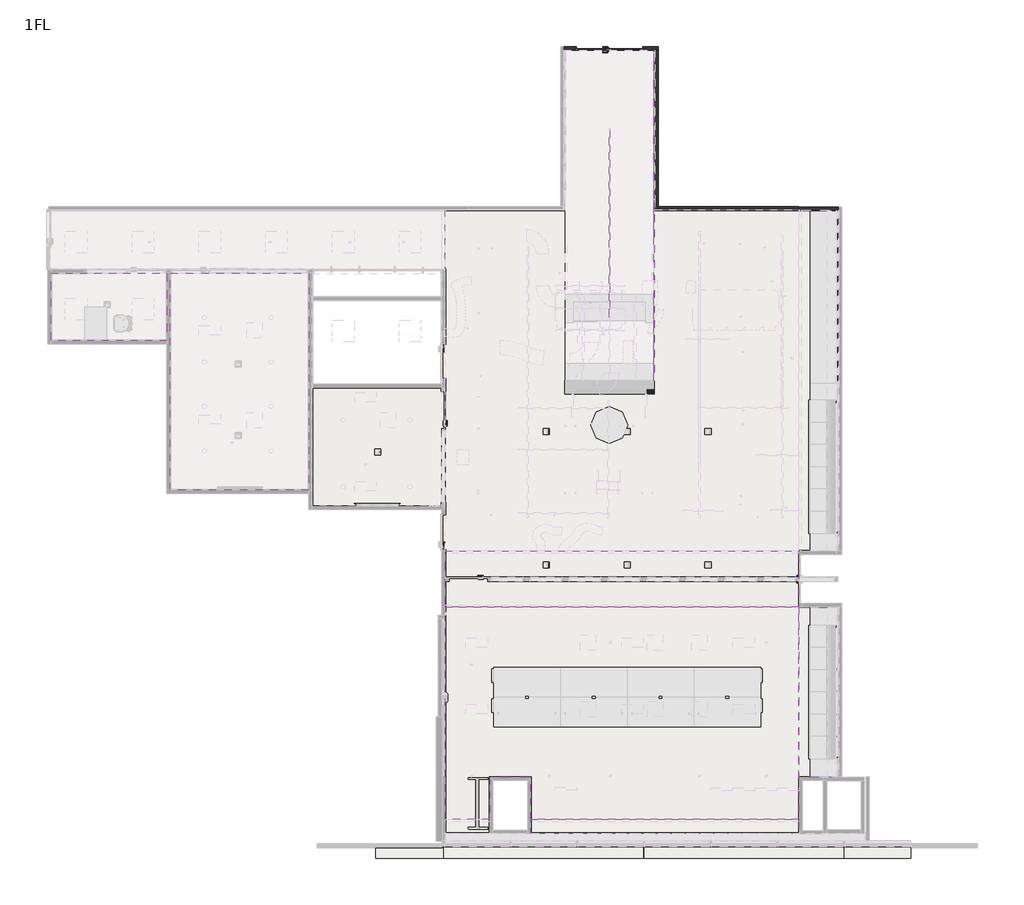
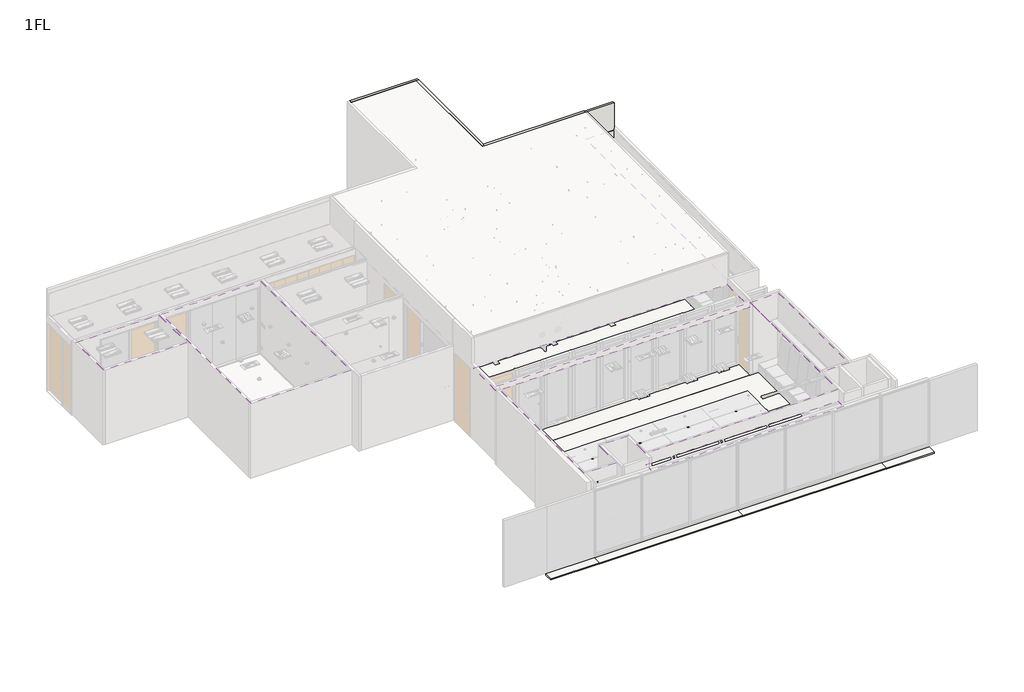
# One storey, part 4 of 13: 11 walls, 6 coverings, 4 slabs, 3 members, 2 doors.
"""IFC4 building model written with IfcOpenShell, lengths in millimetres."""

from ifc_helpers import new_model, si_unit, frame, origin, place, context, project, spatial, polyline, circle_curve, outline, extrude, faceted_brep, transform, mapped, element, save
from ifc_brep_helpers import plane_surface, revolved_surface, advanced_brep
from components import door_a2ed0d4c, ed_1e_1800x2100_9003eb68, louver_20x150_ac673b6a, louver_20x150_9e612a91, louver_20x150_cb5f7806

model = new_model("IFC4")

# Units and contexts
model_context = context("Model", 3, world=origin())
ifc_project = project(units=[si_unit("LENGTHUNIT", "METRE", prefix="MILLI")], contexts=[model_context])

# Site, building, storey
site = spatial("IfcSite", under=ifc_project)
building = spatial("IfcBuilding", under=site)
storey = spatial("IfcBuildingStorey", under=building, Name="1FL", Elevation=500.0)

# Coverings
placement = place(None, origin())
element("IfcCovering", 1, ObjectType="CF-1", at=placement, inside=storey, context=model_context, shape_type="Brep", body=[
    faceted_brep([(21127.5692788, -5632.7797018, 3465.0), (11589.0692788, -5632.7797018, 3465.0), (11589.0692788, -11370.8078391, 3465.0), (12793.0692791, -11370.8078391, 3465.0), (12793.0692791, -10233.3078391, 3465.0), (13893.0692788, -10233.3078391, 3465.0), (13893.0692788, -11370.8078391, 3465.0), (21127.5692788, -11370.8078391, 3465.0), (11589.0692788, -5632.7797018, 3400.0), (21127.5692788, -5632.7797018, 3400.0), (21127.5692788, -10511.1868652, 3400.0), (20549.2353173, -10511.1868652, 3400.0), (20549.2353173, -10584.7950878, 3400.0), (21127.5692788, -10584.7950878, 3400.0), (21127.5692788, -11370.8078391, 3400.0), (13893.0692788, -11370.8078391, 3400.0), (13893.0692788, -10233.3078391, 3400.0), (12793.0692791, -10233.3078391, 3400.0), (12793.0692791, -11370.8078391, 3400.0), (11589.0692788, -11370.8078391, 3400.0), (15639.5353522, -8199.3438181, 3400.0), (15246.6032233, -8199.3438181, 3400.0), (15246.6032233, -8592.275947, 3400.0), (15639.5353522, -8592.275947, 3400.0), (15639.5353522, -6399.3437225, 3400.0), (15246.6032233, -6399.3437225, 3400.0), (15246.6032233, -6792.2758514, 3400.0), (15639.5353522, -6792.2758514, 3400.0), (17439.5353522, -8199.3438181, 3400.0), (17046.6032233, -8199.3438181, 3400.0), (17046.6032233, -8592.275947, 3400.0), (17439.5353522, -8592.275947, 3400.0), (17439.5353522, -6399.3437225, 3400.0), (17046.6032233, -6399.3437225, 3400.0), (17046.6032233, -6792.2758514, 3400.0), (17439.5353522, -6792.2758514, 3400.0), (18639.5353522, -8199.3438181, 3400.0), (18246.6032233, -8199.3438181, 3400.0), (18246.6032233, -8592.275947, 3400.0), (18639.5353522, -8592.275947, 3400.0), (18639.5353522, -6399.3437225, 3400.0), (18246.6032233, -6399.3437225, 3400.0), (18246.6032233, -6792.2758514, 3400.0), (18639.5353522, -6792.2758514, 3400.0), (16851.2355348, -8298.3099684, 3400.0), (16431.2356111, -8298.3099684, 3400.0), (16431.2356111, -8493.3100256, 3400.0), (16851.2355348, -8493.3100256, 3400.0), (16851.2355348, -6498.3098728, 3400.0), (16431.2356111, -6498.3098728, 3400.0), (16431.2356111, -6693.30993, 3400.0), (16851.2355348, -6693.30993, 3400.0), (12653.0692198, -8298.3099684, 3400.0), (12233.069296, -8298.3099684, 3400.0), (12233.069296, -8493.3100256, 3400.0), (12653.0692198, -8493.3100256, 3400.0), (12653.0692198, -6498.3098728, 3400.0), (12233.069296, -6498.3098728, 3400.0), (12233.069296, -6693.30993, 3400.0), (12653.0692198, -6693.30993, 3400.0), (19850.735428, -8298.3099684, 3400.0), (19430.7355043, -8298.3099684, 3400.0), (19430.7355043, -8493.3100256, 3400.0), (19850.735428, -8493.3100256, 3400.0), (19850.735428, -6498.3098728, 3400.0), (19430.7355043, -6498.3098728, 3400.0), (19430.7355043, -6693.30993, 3400.0), (19850.735428, -6693.30993, 3400.0), (19333.2343408, -10584.7950878, 3400.0), (19333.2343408, -10511.1868652, 3400.0), (18749.2353173, -10511.1868652, 3400.0), (18749.2353173, -10584.7950878, 3400.0), (19933.2343408, -10584.7950878, 3400.0), (19933.2343408, -10511.1868652, 3400.0), (19349.2353173, -10511.1868652, 3400.0), (19349.2353173, -10584.7950878, 3400.0), (20533.2343408, -10584.7950878, 3400.0), (20533.2343408, -10511.1868652, 3400.0), (19949.2353173, -10511.1868652, 3400.0), (19949.2353173, -10584.7950878, 3400.0), (15135.0683112, -10576.9182424, 3400.0), (15135.0683112, -10503.3100198, 3400.0), (14551.0692877, -10503.3100198, 3400.0), (14551.0692877, -10576.9182424, 3400.0), (21127.5692788, -10584.7950878, 3455.0000018), (21127.5692788, -10511.1868652, 3455.0000018), (15639.5353522, -8199.3438181, 3425.0), (15246.6032233, -8199.3438181, 3425.0), (15246.6032233, -8592.275947, 3425.0), (15639.5353522, -8592.275947, 3425.0), (15639.5353522, -6399.3437225, 3425.0), (15246.6032233, -6399.3437225, 3425.0), (15246.6032233, -6792.2758514, 3425.0), (15639.5353522, -6792.2758514, 3425.0), (17439.5353522, -8199.3438181, 3425.0), (17046.6032233, -8199.3438181, 3425.0), (17046.6032233, -8592.275947, 3425.0), (17439.5353522, -8592.275947, 3425.0), (17439.5353522, -6399.3437225, 3425.0), (17046.6032233, -6399.3437225, 3425.0), (17046.6032233, -6792.2758514, 3425.0), (17439.5353522, -6792.2758514, 3425.0), (18639.5353522, -8199.3438181, 3425.0), (18246.6032233, -8199.3438181, 3425.0), (18246.6032233, -8592.275947, 3425.0), (18639.5353522, -8592.275947, 3425.0), (18639.5353522, -6399.3437225, 3425.0), (18246.6032233, -6399.3437225, 3425.0), (18246.6032233, -6792.2758514, 3425.0), (18639.5353522, -6792.2758514, 3425.0), (16851.2355348, -8298.3099684, 3411.000061), (16851.2355348, -8493.3100256, 3411.000061), (16431.2356111, -8493.3100256, 3411.000061), (16431.2356111, -8298.3099684, 3411.000061), (16851.2355348, -6498.3098728, 3411.000061), (16431.2356111, -6498.3098728, 3411.000061), (16431.2356111, -6693.30993, 3411.000061), (16851.2355348, -6693.30993, 3411.000061), (12653.0692198, -8298.3099684, 3411.000061), (12233.069296, -8298.3099684, 3411.000061), (12233.069296, -8493.3100256, 3411.000061), (12653.0692198, -8493.3100256, 3411.000061), (12653.0692198, -6498.3098728, 3411.000061), (12233.069296, -6498.3098728, 3411.000061), (12233.069296, -6693.30993, 3411.000061), (12653.0692198, -6693.30993, 3411.000061), (19850.735428, -8298.3099684, 3411.000061), (19430.7355043, -8298.3099684, 3411.000061), (19430.7355043, -8493.3100256, 3411.000061), (19850.735428, -8493.3100256, 3411.000061), (19850.735428, -6498.3098728, 3411.000061), (19430.7355043, -6498.3098728, 3411.000061), (19430.7355043, -6693.30993, 3411.000061), (19850.735428, -6693.30993, 3411.000061), (20549.2353173, -10511.1868652, 3455.0000018), (20549.2353173, -10584.7950878, 3455.0000018), (19333.2343408, -10584.7950878, 3455.0000018), (19333.2343408, -10511.1868652, 3455.0000018), (18749.2353173, -10511.1868652, 3455.0000018), (18749.2353173, -10584.7950878, 3455.0000018), (19933.2343408, -10584.7950878, 3455.0000018), (19933.2343408, -10511.1868652, 3455.0000018), (19349.2353173, -10511.1868652, 3455.0000018), (19349.2353173, -10584.7950878, 3455.0000018), (20533.2343408, -10584.7950878, 3455.0000018), (20533.2343408, -10511.1868652, 3455.0000018), (19949.2353173, -10511.1868652, 3455.0000018), (19949.2353173, -10584.7950878, 3455.0000018), (15135.0683112, -10576.9182424, 3455.0000018), (15135.0683112, -10503.3100198, 3455.0000018), (14551.0692877, -10503.3100198, 3455.0000018), (14551.0692877, -10576.9182424, 3455.0000018)], [[[0, 1, 2, 3, 4, 5, 6, 7]], [[8, 9, 10, 11, 12, 13, 14, 15, 16, 17, 18, 19], [20, 21, 22, 23], [24, 25, 26, 27], [28, 29, 30, 31], [32, 33, 34, 35], [36, 37, 38, 39], [40, 41, 42, 43], [44, 45, 46, 47], [48, 49, 50, 51], [52, 53, 54, 55], [56, 57, 58, 59], [60, 61, 62, 63], [64, 65, 66, 67], [68, 69, 70, 71], [72, 73, 74, 75], [76, 77, 78, 79], [80, 81, 82, 83]], [[1, 0, 9, 8]], [[2, 1, 8, 19]], [[4, 3, 18, 17]], [[5, 4, 17, 16]], [[6, 5, 16, 15]], [[0, 7, 14, 13, 84, 85, 10, 9]], [[3, 2, 19, 18]], [[7, 6, 15, 14]], [[86, 87, 21, 20]], [[21, 87, 88, 22]], [[22, 88, 89, 23]], [[86, 20, 23, 89]], [[87, 86, 89, 88]], [[90, 91, 25, 24]], [[25, 91, 92, 26]], [[26, 92, 93, 27]], [[90, 24, 27, 93]], [[91, 90, 93, 92]], [[94, 95, 29, 28]], [[29, 95, 96, 30]], [[30, 96, 97, 31]], [[94, 28, 31, 97]], [[95, 94, 97, 96]], [[98, 99, 33, 32]], [[33, 99, 100, 34]], [[34, 100, 101, 35]], [[98, 32, 35, 101]], [[99, 98, 101, 100]], [[102, 103, 37, 36]], [[37, 103, 104, 38]], [[38, 104, 105, 39]], [[102, 36, 39, 105]], [[103, 102, 105, 104]], [[106, 107, 41, 40]], [[41, 107, 108, 42]], [[42, 108, 109, 43]], [[106, 40, 43, 109]], [[107, 106, 109, 108]], [[110, 111, 112, 113]], [[110, 113, 45, 44]], [[113, 112, 46, 45]], [[112, 111, 47, 46]], [[111, 110, 44, 47]], [[114, 115, 49, 48]], [[115, 116, 50, 49]], [[116, 117, 51, 50]], [[117, 114, 48, 51]], [[114, 117, 116, 115]], [[118, 119, 53, 52]], [[119, 120, 54, 53]], [[120, 121, 55, 54]], [[121, 118, 52, 55]], [[118, 121, 120, 119]], [[122, 123, 57, 56]], [[123, 124, 58, 57]], [[124, 125, 59, 58]], [[125, 122, 56, 59]], [[122, 125, 124, 123]], [[126, 127, 61, 60]], [[127, 128, 62, 61]], [[128, 129, 63, 62]], [[129, 126, 60, 63]], [[126, 129, 128, 127]], [[130, 131, 65, 64]], [[131, 132, 66, 65]], [[132, 133, 67, 66]], [[133, 130, 64, 67]], [[130, 133, 132, 131]], [[134, 135, 12, 11]], [[135, 134, 85, 84]], [[12, 135, 84, 13]], [[134, 11, 10, 85]], [[136, 137, 69, 68]], [[138, 139, 71, 70]], [[137, 136, 139, 138]], [[139, 136, 68, 71]], [[137, 138, 70, 69]], [[140, 141, 73, 72]], [[142, 143, 75, 74]], [[141, 140, 143, 142]], [[143, 140, 72, 75]], [[141, 142, 74, 73]], [[144, 145, 77, 76]], [[146, 147, 79, 78]], [[145, 144, 147, 146]], [[147, 144, 76, 79]], [[145, 146, 78, 77]], [[148, 149, 81, 80]], [[150, 151, 83, 82]], [[149, 148, 151, 150]], [[151, 148, 80, 83]], [[149, 150, 82, 81]]]),
])
element("IfcCovering", 2, ObjectType="CF-1", at=placement, inside=storey, context=model_context, shape_type="AdvancedBrep", body=[
    advanced_brep(
    [(7917.5680096, 3371.9345805, 3465.0), (4175.8903689, 3371.9345805, 3465.0), (4175.8903689, -2484.9426633, 3465.0), (7917.5680096, -2484.9426633, 3465.0), (4175.8903689, 3371.9345805, 3400.0), (7917.5680096, 3371.9345805, 3400.0), (7917.5680096, -2484.9426633, 3400.0), (4175.8903689, -2484.9426633, 3400.0), (5140.9828042, -1423.507174, 3400.0), (5055.9828042, -1423.507174, 3400.0), (5140.9828042, -223.6216439, 3400.0), (5055.9828042, -223.6216439, 3400.0), (5140.9828042, 976.2601935, 3400.0), (5055.9828042, 976.2601935, 3400.0), (5140.9828042, 2176.142031, 3400.0), (5055.9828042, 2176.142031, 3400.0), (6940.8018676, -1423.507174, 3400.0), (6855.8018676, -1423.507174, 3400.0), (6940.8018676, -223.6216439, 3400.0), (6855.8018676, -223.6216439, 3400.0), (6940.8018676, 976.2601935, 3400.0), (6855.8018676, 976.2601935, 3400.0), (6940.8018676, 2176.142031, 3400.0), (6855.8018676, 2176.142031, 3400.0), (6639.5353522, -399.3417662, 3400.0), (6246.6032233, -399.3417662, 3400.0), (6246.6032233, -792.2738951, 3400.0), (6639.5353522, -792.2738951, 3400.0), (6640.7021066, 2019.3447488, 3400.0), (6247.7699777, 2019.3447488, 3400.0), (6247.7699777, 1626.4126199, 3400.0), (6640.7021066, 1626.4126199, 3400.0), (5453.7369444, -479.1210185, 3400.0), (5033.7370207, -479.1208786, 3400.0), (5033.7369557, -674.1209358, 3400.0), (5453.7368794, -674.1210757, 3400.0), (5453.7369444, 1921.3794698, 3400.0), (5033.7370207, 1921.3796097, 3400.0), (5033.7369557, 1726.3795525, 3400.0), (5453.7368794, 1726.3794126, 3400.0), (5055.9828042, -1423.507174, 3438.1), (5140.9828042, -1423.507174, 3438.1), (5055.9828042, -223.6216439, 3438.1), (5140.9828042, -223.6216439, 3438.1), (5055.9828042, 976.2601935, 3438.1), (5140.9828042, 976.2601935, 3438.1), (5055.9828042, 2176.142031, 3438.1), (5140.9828042, 2176.142031, 3438.1), (6855.8018676, -1423.507174, 3438.1), (6940.8018676, -1423.507174, 3438.1), (6855.8018676, -223.6216439, 3438.1), (6940.8018676, -223.6216439, 3438.1), (6855.8018676, 976.2601935, 3438.1), (6940.8018676, 976.2601935, 3438.1), (6855.8018676, 2176.142031, 3438.1), (6940.8018676, 2176.142031, 3438.1), (6639.5353522, -399.3417662, 3425.0), (6246.6032233, -399.3417662, 3425.0), (6246.6032233, -792.2738951, 3425.0), (6639.5353522, -792.2738951, 3425.0), (6640.7021066, 2019.3447488, 3425.0), (6247.7699777, 2019.3447488, 3425.0), (6247.7699777, 1626.4126199, 3425.0), (6640.7021066, 1626.4126199, 3425.0), (5453.7369444, -479.1210185, 3411.000061), (5033.7370207, -479.1208786, 3411.000061), (5033.7369557, -674.1209358, 3411.000061), (5453.7368794, -674.1210757, 3411.000061), (5453.7369444, 1921.3794698, 3411.000061), (5033.7370207, 1921.3796097, 3411.000061), (5033.7369557, 1726.3795525, 3411.000061), (5453.7368794, 1726.3794126, 3411.000061)],
    [
        (0, 1),
        (1, 2),
        (2, 3),
        (3, 0),
        (4, 5),
        (5, 6),
        (6, 7),
        (7, 4),
        (8, 9, circle_curve(frame((5098.4828042, -1423.507174, 3400.0), z_axis=(0.0, 0.0, 1.0), x_axis=(1.0, 0.0, 0.0)), 42.5)),
        (9, 8, circle_curve(frame((5098.4828042, -1423.507174, 3400.0), z_axis=(0.0, 0.0, 1.0), x_axis=(1.0, 0.0, 0.0)), 42.5)),
        (10, 11, circle_curve(frame((5098.4828042, -223.6216439, 3400.0), z_axis=(0.0, 0.0, 1.0), x_axis=(1.0, 0.0, 0.0)), 42.5)),
        (11, 10, circle_curve(frame((5098.4828042, -223.6216439, 3400.0), z_axis=(0.0, 0.0, 1.0), x_axis=(1.0, 0.0, 0.0)), 42.5)),
        (12, 13, circle_curve(frame((5098.4828042, 976.2601935, 3400.0), z_axis=(0.0, 0.0, 1.0), x_axis=(1.0, 0.0, 0.0)), 42.5)),
        (13, 12, circle_curve(frame((5098.4828042, 976.2601935, 3400.0), z_axis=(0.0, 0.0, 1.0), x_axis=(1.0, 0.0, 0.0)), 42.5)),
        (14, 15, circle_curve(frame((5098.4828042, 2176.142031, 3400.0), z_axis=(0.0, 0.0, 1.0), x_axis=(1.0, 0.0, 0.0)), 42.5)),
        (15, 14, circle_curve(frame((5098.4828042, 2176.142031, 3400.0), z_axis=(0.0, 0.0, 1.0), x_axis=(1.0, 0.0, 0.0)), 42.5)),
        (16, 17, circle_curve(frame((6898.3018676, -1423.507174, 3400.0), z_axis=(0.0, 0.0, 1.0), x_axis=(1.0, 0.0, 0.0)), 42.5)),
        (17, 16, circle_curve(frame((6898.3018676, -1423.507174, 3400.0), z_axis=(0.0, 0.0, 1.0), x_axis=(1.0, 0.0, 0.0)), 42.5)),
        (18, 19, circle_curve(frame((6898.3018676, -223.6216439, 3400.0), z_axis=(0.0, 0.0, 1.0), x_axis=(1.0, 0.0, 0.0)), 42.5)),
        (19, 18, circle_curve(frame((6898.3018676, -223.6216439, 3400.0), z_axis=(0.0, 0.0, 1.0), x_axis=(1.0, 0.0, 0.0)), 42.5)),
        (20, 21, circle_curve(frame((6898.3018676, 976.2601935, 3400.0), z_axis=(0.0, 0.0, 1.0), x_axis=(1.0, 0.0, 0.0)), 42.5)),
        (21, 20, circle_curve(frame((6898.3018676, 976.2601935, 3400.0), z_axis=(0.0, 0.0, 1.0), x_axis=(1.0, 0.0, 0.0)), 42.5)),
        (22, 23, circle_curve(frame((6898.3018676, 2176.142031, 3400.0), z_axis=(0.0, 0.0, 1.0), x_axis=(1.0, 0.0, 0.0)), 42.5)),
        (23, 22, circle_curve(frame((6898.3018676, 2176.142031, 3400.0), z_axis=(0.0, 0.0, 1.0), x_axis=(1.0, 0.0, 0.0)), 42.5)),
        (24, 25),
        (25, 26),
        (26, 27),
        (27, 24),
        (28, 29),
        (29, 30),
        (30, 31),
        (31, 28),
        (32, 33),
        (33, 34),
        (34, 35),
        (35, 32),
        (36, 37),
        (37, 38),
        (38, 39),
        (39, 36),
        (0, 5),
        (4, 1),
        (7, 2),
        (6, 3),
        (40, 41, circle_curve(frame((5098.4828042, -1423.507174, 3438.1), z_axis=(0.0, 0.0, -1.0), x_axis=(1.0, 0.0, 0.0)), 42.5)),
        (41, 40, circle_curve(frame((5098.4828042, -1423.507174, 3438.1), z_axis=(0.0, 0.0, -1.0), x_axis=(1.0, 0.0, 0.0)), 42.5)),
        (40, 9),
        (8, 41),
        (42, 43, circle_curve(frame((5098.4828042, -223.6216439, 3438.1), z_axis=(0.0, 0.0, -1.0), x_axis=(1.0, 0.0, 0.0)), 42.5)),
        (43, 42, circle_curve(frame((5098.4828042, -223.6216439, 3438.1), z_axis=(0.0, 0.0, -1.0), x_axis=(1.0, 0.0, 0.0)), 42.5)),
        (42, 11),
        (10, 43),
        (44, 45, circle_curve(frame((5098.4828042, 976.2601935, 3438.1), z_axis=(0.0, 0.0, -1.0), x_axis=(1.0, 0.0, 0.0)), 42.5)),
        (45, 44, circle_curve(frame((5098.4828042, 976.2601935, 3438.1), z_axis=(0.0, 0.0, -1.0), x_axis=(1.0, 0.0, 0.0)), 42.5)),
        (44, 13),
        (12, 45),
        (46, 47, circle_curve(frame((5098.4828042, 2176.142031, 3438.1), z_axis=(0.0, 0.0, -1.0), x_axis=(1.0, 0.0, 0.0)), 42.5)),
        (47, 46, circle_curve(frame((5098.4828042, 2176.142031, 3438.1), z_axis=(0.0, 0.0, -1.0), x_axis=(1.0, 0.0, 0.0)), 42.5)),
        (46, 15),
        (14, 47),
        (48, 49, circle_curve(frame((6898.3018676, -1423.507174, 3438.1), z_axis=(0.0, 0.0, -1.0), x_axis=(1.0, 0.0, 0.0)), 42.5)),
        (49, 48, circle_curve(frame((6898.3018676, -1423.507174, 3438.1), z_axis=(0.0, 0.0, -1.0), x_axis=(1.0, 0.0, 0.0)), 42.5)),
        (48, 17),
        (16, 49),
        (50, 51, circle_curve(frame((6898.3018676, -223.6216439, 3438.1), z_axis=(0.0, 0.0, -1.0), x_axis=(1.0, 0.0, 0.0)), 42.5)),
        (51, 50, circle_curve(frame((6898.3018676, -223.6216439, 3438.1), z_axis=(0.0, 0.0, -1.0), x_axis=(1.0, 0.0, 0.0)), 42.5)),
        (50, 19),
        (18, 51),
        (52, 53, circle_curve(frame((6898.3018676, 976.2601935, 3438.1), z_axis=(0.0, 0.0, -1.0), x_axis=(1.0, 0.0, 0.0)), 42.5)),
        (53, 52, circle_curve(frame((6898.3018676, 976.2601935, 3438.1), z_axis=(0.0, 0.0, -1.0), x_axis=(1.0, 0.0, 0.0)), 42.5)),
        (52, 21),
        (20, 53),
        (54, 55, circle_curve(frame((6898.3018676, 2176.142031, 3438.1), z_axis=(0.0, 0.0, -1.0), x_axis=(1.0, 0.0, 0.0)), 42.5)),
        (55, 54, circle_curve(frame((6898.3018676, 2176.142031, 3438.1), z_axis=(0.0, 0.0, -1.0), x_axis=(1.0, 0.0, 0.0)), 42.5)),
        (54, 23),
        (22, 55),
        (56, 57),
        (57, 25),
        (24, 56),
        (57, 58),
        (58, 26),
        (58, 59),
        (59, 27),
        (59, 56),
        (60, 61),
        (61, 29),
        (28, 60),
        (61, 62),
        (62, 30),
        (62, 63),
        (63, 31),
        (63, 60),
        (64, 65),
        (65, 33),
        (32, 64),
        (65, 66),
        (66, 34),
        (66, 67),
        (67, 35),
        (67, 64),
        (68, 69),
        (69, 37),
        (36, 68),
        (69, 70),
        (70, 38),
        (70, 71),
        (71, 39),
        (71, 68),
    ],
    [
        plane_surface(frame((11543.0692788, 3371.9345805, 3465.0), z_axis=(0.0, 0.0, 1.0), x_axis=(-1.0, 0.0, 0.0))),
        plane_surface(frame((11543.0692788, 3371.9345805, 3400.0), z_axis=(0.0, 0.0, -1.0), x_axis=(1.0, 0.0, 0.0))),
        plane_surface(frame((7917.5680096, 3371.9345805, 3465.0), z_axis=(0.0, 1.0, 0.0), x_axis=(0.0, 0.0, -1.0))),
        plane_surface(frame((4175.8903689, 3371.9345805, 3465.0), z_axis=(-1.0, 0.0, 0.0), x_axis=(0.0, 0.0, -1.0))),
        plane_surface(frame((4175.8903689, -2484.9426633, 3465.0), z_axis=(0.0, -1.0, 0.0), x_axis=(0.0, 0.0, -1.0))),
        plane_surface(frame((7917.5680096, -2484.9426633, 3465.0), z_axis=(1.0, 0.0, 0.0), x_axis=(0.0, 0.0, -1.0))),
        plane_surface(frame((5140.9828042, -1423.507174, 3438.1), z_axis=(0.0, 0.0, -1.0), x_axis=(0.0, 1.0, 0.0))),
        revolved_surface(polyline([(5140.9828042, -1423.507174, 3400.0), (5140.9828042, -1423.507174, 3438.1)]), (5098.4828042, -1423.507174, 3438.1), (0.0, 0.0, -1.0)),
        plane_surface(frame((5140.9828042, -223.6216439, 3438.1), z_axis=(0.0, 0.0, -1.0), x_axis=(0.0, 1.0, 0.0))),
        revolved_surface(polyline([(5140.9828042, -223.6216439, 3400.0), (5140.9828042, -223.6216439, 3438.1)]), (5098.4828042, -223.6216439, 3438.1), (0.0, 0.0, -1.0)),
        plane_surface(frame((5140.9828042, 976.2601935, 3438.1), z_axis=(0.0, 0.0, -1.0), x_axis=(0.0, 1.0, 0.0))),
        revolved_surface(polyline([(5140.9828042, 976.2601935, 3400.0), (5140.9828042, 976.2601935, 3438.1)]), (5098.4828042, 976.2601935, 3438.1), (0.0, 0.0, -1.0)),
        plane_surface(frame((5140.9828042, 2176.142031, 3438.1), z_axis=(0.0, 0.0, -1.0), x_axis=(0.0, 1.0, 0.0))),
        revolved_surface(polyline([(5140.9828042, 2176.142031, 3400.0), (5140.9828042, 2176.142031, 3438.1)]), (5098.4828042, 2176.142031, 3438.1), (0.0, 0.0, -1.0)),
        plane_surface(frame((6940.8018676, -1423.507174, 3438.1), z_axis=(0.0, 0.0, -1.0), x_axis=(0.0, 1.0, 0.0))),
        revolved_surface(polyline([(6940.8018676, -1423.507174, 3400.0), (6940.8018676, -1423.507174, 3438.1)]), (6898.3018676, -1423.507174, 3438.1), (0.0, 0.0, -1.0)),
        plane_surface(frame((6940.8018676, -223.6216439, 3438.1), z_axis=(0.0, 0.0, -1.0), x_axis=(0.0, 1.0, 0.0))),
        revolved_surface(polyline([(6940.8018676, -223.6216439, 3400.0), (6940.8018676, -223.6216439, 3438.1)]), (6898.3018676, -223.6216439, 3438.1), (0.0, 0.0, -1.0)),
        plane_surface(frame((6940.8018676, 976.2601935, 3438.1), z_axis=(0.0, 0.0, -1.0), x_axis=(0.0, 1.0, 0.0))),
        revolved_surface(polyline([(6940.8018676, 976.2601935, 3400.0), (6940.8018676, 976.2601935, 3438.1)]), (6898.3018676, 976.2601935, 3438.1), (0.0, 0.0, -1.0)),
        plane_surface(frame((6940.8018676, 2176.142031, 3438.1), z_axis=(0.0, 0.0, -1.0), x_axis=(0.0, 1.0, 0.0))),
        revolved_surface(polyline([(6940.8018676, 2176.142031, 3400.0), (6940.8018676, 2176.142031, 3438.1)]), (6898.3018676, 2176.142031, 3438.1), (0.0, 0.0, -1.0)),
        plane_surface(frame((6639.5353522, -399.3417662, 3425.0), z_axis=(0.0, -1.0, 0.0), x_axis=(0.0, 0.0, -1.0))),
        plane_surface(frame((6246.6032233, -399.3417662, 3425.0), z_axis=(1.0, 0.0, 0.0), x_axis=(0.0, 0.0, -1.0))),
        plane_surface(frame((6246.6032233, -792.2738951, 3425.0), z_axis=(0.0, 1.0, 0.0), x_axis=(0.0, 0.0, -1.0))),
        plane_surface(frame((6639.5353522, -792.2738951, 3425.0), z_axis=(-1.0, 0.0, 0.0), x_axis=(0.0, 0.0, -1.0))),
        plane_surface(frame((6247.3100104, -399.3417662, 3425.0), z_axis=(0.0, 0.0, -1.0), x_axis=(-1.0, 0.0, 0.0))),
        plane_surface(frame((6640.7021066, 2019.3447488, 3425.0), z_axis=(0.0, -1.0, 0.0), x_axis=(0.0, 0.0, -1.0))),
        plane_surface(frame((6247.7699777, 2019.3447488, 3425.0), z_axis=(1.0, 0.0, 0.0), x_axis=(0.0, 0.0, -1.0))),
        plane_surface(frame((6247.7699777, 1626.4126199, 3425.0), z_axis=(0.0, 1.0, 0.0), x_axis=(0.0, 0.0, -1.0))),
        plane_surface(frame((6640.7021066, 1626.4126199, 3425.0), z_axis=(-1.0, 0.0, 0.0), x_axis=(0.0, 0.0, -1.0))),
        plane_surface(frame((6248.4767648, 2019.3447488, 3425.0), z_axis=(0.0, 0.0, -1.0), x_axis=(-1.0, 0.0, 0.0))),
        plane_surface(frame((5453.7369444, -479.1210185, 3411.000061), z_axis=(-3.331627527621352e-07, -0.9999999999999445, 0.0), x_axis=(0.0, 0.0, -1.0))),
        plane_surface(frame((5033.7370207, -479.1208786, 3411.000061), z_axis=(0.9999999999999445, -3.331627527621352e-07, 0.0), x_axis=(0.0, 0.0, -1.0))),
        plane_surface(frame((5033.7369557, -674.1209358, 3411.000061), z_axis=(3.331627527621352e-07, 0.9999999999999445, 0.0), x_axis=(0.0, 0.0, -1.0))),
        plane_surface(frame((5453.7368794, -674.1210757, 3411.000061), z_axis=(-0.9999999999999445, 3.331627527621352e-07, 0.0), x_axis=(0.0, 0.0, -1.0))),
        plane_surface(frame((5033.7370207, -479.1208786, 3411.000061), z_axis=(0.0, 0.0, -1.0), x_axis=(-0.9999999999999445, 3.331627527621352e-07, 0.0))),
        plane_surface(frame((5453.7369444, 1921.3794698, 3411.000061), z_axis=(-3.331627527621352e-07, -0.9999999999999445, 0.0), x_axis=(0.0, 0.0, -1.0))),
        plane_surface(frame((5033.7370207, 1921.3796097, 3411.000061), z_axis=(0.9999999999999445, -3.331627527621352e-07, 0.0), x_axis=(0.0, 0.0, -1.0))),
        plane_surface(frame((5033.7369557, 1726.3795525, 3411.000061), z_axis=(3.331627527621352e-07, 0.9999999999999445, 0.0), x_axis=(0.0, 0.0, -1.0))),
        plane_surface(frame((5453.7368794, 1726.3794126, 3411.000061), z_axis=(-0.9999999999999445, 3.331627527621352e-07, 0.0), x_axis=(0.0, 0.0, -1.0))),
        plane_surface(frame((5033.7370207, 1921.3796097, 3411.000061), z_axis=(0.0, 0.0, -1.0), x_axis=(-0.9999999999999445, 3.331627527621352e-07, 0.0))),
    ],
    [
        (0, [[1, 2, 3, 4]]),
        (1, [[5, 6, 7, 8], [9, 10], [11, 12], [13, 14], [15, 16], [17, 18], [19, 20], [21, 22], [23, 24], [25, 26, 27, 28], [29, 30, 31, 32], [33, 34, 35, 36], [37, 38, 39, 40]]),
        (2, [[-1, 41, -5, 42]]),
        (3, [[-2, -42, -8, 43]]),
        (4, [[-3, -43, -7, 44]]),
        (5, [[-4, -44, -6, -41]]),
        (6, [[45, 46]]),
        (7, [[-45, 47, -9, 48]]),
        (7, [[-46, -48, -10, -47]]),
        (8, [[49, 50]]),
        (9, [[-49, 51, -11, 52]]),
        (9, [[-50, -52, -12, -51]]),
        (10, [[53, 54]]),
        (11, [[-53, 55, -13, 56]]),
        (11, [[-54, -56, -14, -55]]),
        (12, [[57, 58]]),
        (13, [[-57, 59, -15, 60]]),
        (13, [[-58, -60, -16, -59]]),
        (14, [[61, 62]]),
        (15, [[-61, 63, -17, 64]]),
        (15, [[-62, -64, -18, -63]]),
        (16, [[65, 66]]),
        (17, [[-65, 67, -19, 68]]),
        (17, [[-66, -68, -20, -67]]),
        (18, [[69, 70]]),
        (19, [[-69, 71, -21, 72]]),
        (19, [[-70, -72, -22, -71]]),
        (20, [[73, 74]]),
        (21, [[-73, 75, -23, 76]]),
        (21, [[-74, -76, -24, -75]]),
        (22, [[77, 78, -25, 79]]),
        (23, [[-78, 80, 81, -26]]),
        (24, [[-81, 82, 83, -27]]),
        (25, [[-79, -28, -83, 84]]),
        (26, [[-77, -84, -82, -80]]),
        (27, [[85, 86, -29, 87]]),
        (28, [[-86, 88, 89, -30]]),
        (29, [[-89, 90, 91, -31]]),
        (30, [[-87, -32, -91, 92]]),
        (31, [[-85, -92, -90, -88]]),
        (32, [[93, 94, -33, 95]]),
        (33, [[-94, 96, 97, -34]]),
        (34, [[-97, 98, 99, -35]]),
        (35, [[-95, -36, -99, 100]]),
        (36, [[-93, -100, -98, -96]]),
        (37, [[101, 102, -37, 103]]),
        (38, [[-102, 104, 105, -38]]),
        (39, [[-105, 106, 107, -39]]),
        (40, [[-103, -40, -107, 108]]),
        (41, [[-101, -108, -106, -104]]),
    ],
),
])
element("IfcCovering", 3, ObjectType="CF-1", at=placement, inside=storey, context=model_context, shape_type="SweptSolid", body=[
    extrude(outline(polyline([(4083.8903689, 1552.9345805), (963.6488246, 1552.9345805), (963.6488246, 3371.9345805), (4083.8903689, 3371.9345805), (4083.8903689, 1552.9345805)]), holes=[polyline([(3735.0702643, 2119.1941988), (3735.0702643, 2689.1921694), (3149.0702643, 2689.1921694), (3149.0702643, 2119.1941988), (3735.0702643, 2119.1941988)]), polyline([(1935.0702643, 2119.1941988), (1935.0702643, 2689.1921694), (1349.0702643, 2689.1921694), (1349.0702643, 2119.1941988), (1935.0702643, 2119.1941988)])]), frame((0.0, 0.0, 3400.0), z_axis=(0.0, 0.0, 1.0), x_axis=(1.0, 0.0, 0.0)), (0.0, 0.0, 1.0), 65.0),
])
element("IfcCovering", 4, ObjectType="CF-5", at=placement, inside=storey, context=model_context, shape_type="SweptSolid", body=[
    extrude(outline(polyline([(-4125.3048863, 3200.0), (-5637.2797018, 3200.0), (-5637.2797018, 3205.0), (-5575.2797018, 3205.0), (-5575.2797018, 3221.0), (-4187.3077133, 3221.0), (-4187.3077133, 3205.0), (-4125.3048863, 3205.0), (-4125.3048863, 3200.0)])), frame((11589.0692788, 0.0, 0.0), z_axis=(1.0, 0.0, 0.0), x_axis=(0.0, 1.0, 0.0)), (0.0, 0.0, 1.0), 9538.5),
])
element("IfcCovering", 5, ObjectType="CF-5", at=placement, inside=storey, context=model_context, shape_type="Brep", body=[
    faceted_brep([(21127.5692788, -11750.8073642, 2971.0013148), (21127.5692788, -11437.8358493, 2971.0013148), (21127.5692788, -11370.8358493, 2971.0013148), (13893.0692788, -11370.8358493, 2971.0013148), (13893.0692788, -11437.8358493, 2971.0013148), (13893.0692788, -11750.8078178, 2971.0013148), (21127.5692788, -11370.8358493, 2950.0013148), (21127.5692788, -11750.8073642, 2950.0013148), (13893.0692788, -11750.8068287, 2950.0013148), (13893.0692788, -11370.8358493, 2950.0013148)], [[[0, 1, 2, 3, 4, 5]], [[6, 7, 8, 9]], [[2, 1, 0, 7, 6]], [[3, 2, 6, 9]], [[5, 4, 3, 9, 8]], [[0, 5, 8, 7]]]),
    faceted_brep([(12793.0692791, -11750.8078178, 2971.0013148), (12793.0692791, -11437.8358493, 2971.0013148), (12793.0692791, -11370.8078391, 2971.0013148), (11589.0692788, -11370.8078391, 2971.0013148), (11589.0692788, -11437.8358493, 2971.0013148), (11589.0692788, -11940.8068287, 2971.0013148), (11598.5680096, -11940.8068287, 2971.0013148), (11598.5680096, -11750.8068287, 2971.0013148), (12793.0692791, -11370.8078391, 2950.0013148), (12793.0692791, -11750.8078178, 2950.0013148), (11598.5680096, -11750.8068287, 2950.0013148), (11598.5680096, -11940.8068287, 2950.0013148), (11589.0692788, -11940.8068287, 2950.0013148), (11589.0692788, -11370.8078391, 2950.0013148)], [[[0, 1, 2, 3, 4, 5, 6, 7]], [[8, 9, 10, 11, 12, 13]], [[2, 1, 0, 9, 8]], [[3, 2, 8, 13]], [[5, 4, 3, 13, 12]], [[5, 12, 11, 6]], [[10, 7, 6, 11]], [[7, 10, 9, 0]]]),
])
element("IfcCovering", 6, ObjectType="CF-7", at=placement, inside=storey, context=model_context, shape_type="SweptSolid", body=[
    extrude(outline(polyline([(22200.069283, -5642.2797031), (22200.069283, -10230.3078391), (21127.5692788, -10230.3078391), (21127.5692788, -5642.2797031), (22200.069283, -5642.2797031)])), frame((0.0, 0.0, 3400.0), z_axis=(0.0, 0.0, 1.0), x_axis=(1.0, 0.0, 0.0)), (0.0, 0.0, 1.0), 67.0),
])

# Doors
door_shape = door_a2ed0d4c(model_context)
element("IfcDoor", 7, ObjectType="開きドア(ガラス） : ガラス", at=placement, inside=storey, context=model_context, shape_type="MappedRepresentation", body=[
    mapped(door_shape, transform((16026.0692788, 9403.1663845, 505.0), x_axis=(1.0, 0.0, 0.0), y_axis=(0.0, 1.0, 0.0), z_axis=(0.0, 0.0, 1.0))),
])
ed_1e_1800x2100_shape = ed_1e_1800x2100_9003eb68(model_context)
element("IfcDoor", 8, ObjectType="Steel_Doule-Door-Entrance : ED-1E_1800x2100", at=placement, inside=storey, context=model_context, shape_type="MappedRepresentation", body=[
    mapped(ed_1e_1800x2100_shape, transform((16018.5692788, 9435.1921609, 500.0), x_axis=(-1.0, 0.0, 0.0), y_axis=(0.0, -1.0, 0.0), z_axis=(0.0, 0.0, 1.0))),
])

# Members
louver_20x150_shape = louver_20x150_ac673b6a(model_context)
element("IfcMember", 9, ObjectType="長方形マリオン : louver-20x150", at=placement, inside=storey, context=model_context, shape_type="MappedRepresentation", body=[
    mapped(louver_20x150_shape, transform((16018.0692785, 4004.9839196, 3075.0), x_axis=(1.0, 0.0, 0.0), y_axis=(0.0, 0.0, -1.0), z_axis=(0.0, 1.0, 0.0))),
])
louver_20x150_2_shape = louver_20x150_9e612a91(model_context)
element("IfcMember", 10, ObjectType="長方形マリオン : louver-20x150", at=placement, inside=storey, context=model_context, shape_type="MappedRepresentation", body=[
    mapped(louver_20x150_2_shape, transform((16018.0692785, 7222.8888043, 3075.0), x_axis=(1.0, 0.0, 0.0), y_axis=(0.0, 0.0, -1.0), z_axis=(0.0, 1.0, 0.0))),
])
louver_20x150_3_shape = louver_20x150_cb5f7806(model_context)
element("IfcMember", 11, ObjectType="長方形マリオン : louver-20x150", at=placement, inside=storey, context=model_context, shape_type="MappedRepresentation", body=[
    mapped(louver_20x150_3_shape, transform((17218.0692785, 5350.9421609, 3075.0), x_axis=(1.0, 0.0, 0.0), y_axis=(0.0, 0.0, -1.0), z_axis=(0.0, 1.0, 0.0))),
])

# Slabs
element("IfcSlab", 12, ObjectType="グレーチング", at=placement, inside=storey, context=model_context, shape_type="SweptSolid", body=[
    extrude(outline(polyline([(11533.0692788, -12420.807837), (9713.0693469, -12420.807837), (9713.0693469, -12100.8069213), (11533.0692788, -12100.8069213), (11533.0692788, -12420.807837)])), frame((0.0, 0.0, 450.0), z_axis=(0.0, 0.0, 1.0), x_axis=(1.0, 0.0, 0.0)), (0.0, 0.0, 1.0), 50.0),
    extrude(outline(polyline([(11553.0692788, -12420.807837), (11553.0692788, -12100.8069213), (16933.0692788, -12100.8069213), (16933.0692788, -12420.807837), (11553.0692788, -12420.807837)])), frame((0.0, 0.0, 450.0), z_axis=(0.0, 0.0, 1.0), x_axis=(1.0, 0.0, 0.0)), (0.0, 0.0, 1.0), 50.0),
    extrude(outline(polyline([(22333.0692788, -12420.807837), (16953.0692788, -12420.807837), (16953.0692788, -12100.8069213), (22333.0692788, -12100.8069213), (22333.0692788, -12420.807837)])), frame((0.0, 0.0, 450.0), z_axis=(0.0, 0.0, 1.0), x_axis=(1.0, 0.0, 0.0)), (0.0, 0.0, 1.0), 50.0),
    extrude(outline(polyline([(22353.0692874, -12420.807837), (22353.0692874, -12100.8069213), (24143.0692788, -12100.8069213), (24143.0692788, -12420.807837), (22353.0692874, -12420.807837)])), frame((0.0, 0.0, 450.0), z_axis=(0.0, 0.0, 1.0), x_axis=(1.0, 0.0, 0.0)), (0.0, 0.0, 1.0), 50.0),
])
element("IfcSlab", 13, ObjectType="FF-6_タイル", at=placement, inside=storey, context=model_context, shape_type="SweptSolid", body=[
    extrude(outline(polyline([(17228.0692785, 224.4264486), (17228.0692785, 5061.6921609), (22279.569283, 5061.6921609), (22279.569283, -4129.7797031), (21137.0692788, -4129.7797031), (21137.0692788, -5642.2797031), (11589.0692788, -5642.2797031), (11589.0692788, -4079.7997031), (11497.0692788, -4079.7997031), (11497.0692788, -3159.7997031), (11598.5692788, -3159.7997031), (11598.5692788, 504.6264721), (11497.0692788, 504.6264721), (11497.0692788, 1464.6264721), (11598.5692788, 1464.6264721), (11598.5692788, 5061.6921609), (14808.0692785, 5061.6921609), (14808.0692785, 224.4264486), (17228.0692785, 224.4264486)])), frame((0.0, 0.0, 485.0), z_axis=(0.0, 0.0, 1.0), x_axis=(1.0, 0.0, 0.0)), (0.0, 0.0, 1.0), 15.0),
])
element("IfcSlab", 14, ObjectType="FF-2_タイルカーペット", at=placement, inside=storey, context=model_context, shape_type="SweptSolid", body=[
    extrude(outline(polyline([(8019.0680096, -2909.2797031), (8019.0680096, 283.1264721), (11598.5692788, 283.1264721), (11598.5692788, -2909.2797031), (8019.0680096, -2909.2797031)])), frame((0.0, 0.0, 485.0), z_axis=(0.0, 0.0, 1.0), x_axis=(1.0, 0.0, 0.0)), (0.0, 0.0, 1.0), 15.0),
])
element("IfcSlab", 15, ObjectType="FF-2_タイルカーペット", at=placement, inside=storey, context=model_context, shape_type="Brep", body=[
    faceted_brep([(11598.5680794, -11750.8078391, 485.0), (11598.5680794, -8825.1858783, 485.0), (11598.5692788, -5642.2797031, 485.0), (22190.569283, -5642.2797031, 485.0), (22190.569283, -10230.3078391, 485.0), (21137.0692788, -10230.3078391, 485.0), (21137.0692788, -11750.8073642, 485.0), (13905.5692788, -11750.8078391, 485.0), (13905.5692788, -10220.8078391, 485.0), (12780.5692789, -10220.8078391, 485.0), (12780.5692789, -11750.8078178, 485.0), (11598.5680794, -11750.8078391, 500.0), (12780.5692789, -11750.8078178, 500.0), (12780.5692789, -10220.8078391, 500.0), (13905.5692788, -10220.8078391, 500.0), (13905.5692788, -11750.8078391, 500.0), (21137.0692788, -11750.8073642, 500.0), (21137.0692788, -10230.3078391, 500.0), (22190.569283, -10230.3078391, 500.0), (22190.569283, -5642.2797031, 500.0), (11598.5692788, -5642.2797031, 500.0), (11598.5692788, -8825.1858783, 500.0)], [[[0, 1, 2, 3, 4, 5, 6, 7, 8, 9, 10]], [[11, 12, 13, 14, 15, 16, 17, 18, 19, 20, 21]], [[1, 0, 11, 21]], [[2, 1, 21, 20]], [[3, 2, 20, 19]], [[4, 3, 19, 18]], [[5, 4, 18, 17]], [[6, 5, 17, 16]], [[7, 6, 16, 15]], [[8, 7, 15, 14]], [[9, 8, 14, 13]], [[10, 9, 13, 12]], [[0, 10, 12, 11]]]),
])

# Walls
element("IfcWall", 16, ObjectType="W-3", at=placement, inside=storey, context=model_context, shape_type="Brep", body=[
    faceted_brep([(22200.069283, 5150.6921609, 500.0), (21127.5692788, 5150.6921609, 500.0), (21127.5692788, 5150.6921609, 4470.0), (22200.069283, 5150.6921609, 4470.0), (22200.069283, 5150.6921609, 3467.0), (22200.069283, 5071.1921609, 500.0), (22200.069283, 5071.1921609, 4470.0), (21194.5692788, 5071.1921609, 4470.0), (21127.5692788, 5071.1921609, 4470.0), (21127.5692788, 5071.1921609, 3400.0), (21127.5692788, 5071.1921609, 500.0), (21127.5692788, 5079.6921609, 500.0), (21127.5692788, 5079.6921609, 4470.0)], [[[0, 1, 2, 3, 4]], [[5, 6, 7, 8, 9, 10]], [[1, 0, 5, 10, 11]], [[3, 2, 12, 8, 7, 6]], [[0, 4, 3, 6, 5]], [[2, 1, 11, 10, 9, 8, 12]]]),
])
element("IfcWall", 17, ObjectType="W-3A", at=placement, inside=storey, context=model_context, shape_type="Brep", body=[
    faceted_brep([(17335.0692785, 9390.6921609, 4470.0), (17246.0692785, 9390.6921609, 4470.0), (17236.5692785, 9390.6921609, 4470.0), (14799.5692785, 9390.6921609, 4470.0), (14790.0692785, 9390.6921609, 4470.0), (14790.0692785, 9390.6921609, 4320.0), (14790.0692785, 9390.6921609, 3400.0), (14790.0692785, 9390.6921609, 500.0), (14808.0692785, 9390.6921609, 500.0), (15091.0692788, 9390.6921609, 500.0), (15091.0692788, 9390.6921609, 2627.5), (16946.0692788, 9390.6921609, 2627.5), (16946.0692788, 9390.6921609, 500.0), (17228.0692785, 9390.6921609, 500.0), (17246.0692785, 9390.6921609, 500.0), (17335.0692785, 9390.6921609, 500.0), (14790.0692785, 9479.6921609, 4470.0), (17335.0692785, 9479.6921609, 4470.0), (17335.0692785, 9479.6921609, 500.0), (16928.5692788, 9479.6921609, 500.0), (16928.5692788, 9479.6921609, 2610.0), (15108.5692788, 9479.6921609, 2610.0), (15108.5692788, 9479.6921609, 500.0), (14790.0692785, 9479.6921609, 500.0), (16946.0692788, 9453.1921609, 500.0), (16928.5692788, 9453.1921609, 500.0), (15108.5692788, 9453.1921609, 500.0), (15091.0692788, 9453.1921609, 500.0), (15091.0692788, 9453.1921609, 2627.5), (16946.0692788, 9453.1921609, 2627.5), (15108.5692788, 9453.1921609, 2610.0), (16928.5692788, 9453.1921609, 2610.0)], [[[0, 1, 2, 3, 4, 5, 6, 7, 8, 9, 10, 11, 12, 13, 14, 15]], [[16, 17, 18, 19, 20, 21, 22, 23]], [[18, 15, 14, 13, 12, 24, 25, 19]], [[7, 23, 22, 26, 27, 9, 8]], [[4, 3, 2, 1, 0, 17, 16]], [[28, 29, 11, 10]], [[29, 24, 12, 11]], [[29, 28, 27, 26, 30, 31, 25, 24]], [[27, 28, 10, 9]], [[31, 30, 21, 20]], [[25, 31, 20, 19]], [[30, 26, 22, 21]], [[15, 18, 17, 0]], [[23, 7, 6, 5, 4, 16]]]),
])
element("IfcWall", 18, ObjectType="W-3A", at=placement, inside=storey, context=model_context, shape_type="Brep", body=[
    faceted_brep([(17246.0692785, 9390.6921609, 500.0), (17246.0692785, 5079.6921609, 500.0), (17246.0692785, 5079.6921609, 4470.0), (17246.0692785, 9390.6921609, 4470.0), (17335.0692785, 9390.6921609, 500.0), (17335.0692785, 9390.6921609, 4470.0), (17335.0692785, 5168.6921609, 4470.0), (17335.0692785, 5079.6921609, 4470.0), (17335.0692785, 5079.6921609, 500.0), (17335.0692785, 5168.6921609, 500.0)], [[[0, 1, 2, 3]], [[4, 5, 6, 7, 8, 9]], [[1, 0, 4, 9, 8]], [[3, 2, 7, 6, 5]], [[2, 1, 8, 7]], [[0, 3, 5, 4]]]),
])
element("IfcWall", 19, ObjectType="W-3A", at=placement, inside=storey, context=model_context, shape_type="Brep", body=[
    faceted_brep([(21127.5692788, 5168.6921609, 500.0), (17335.0692785, 5168.6921609, 500.0), (17335.0692785, 5168.6921609, 4470.0), (21127.5692788, 5168.6921609, 4470.0), (21127.5692788, 5079.6921609, 500.0), (21127.5692788, 5079.6921609, 4470.0), (17335.0692785, 5079.6921609, 4470.0), (17335.0692785, 5079.6921609, 500.0), (21127.5692788, 5150.6921609, 500.0), (21127.5692788, 5150.6921609, 4470.0)], [[[0, 1, 2, 3]], [[4, 5, 6, 7]], [[1, 0, 8, 4, 7]], [[3, 2, 6, 5, 9]], [[0, 3, 9, 5, 4, 8]], [[2, 1, 7, 6]]]),
])
element("IfcWall", 20, ObjectType="WF-10", at=placement, inside=storey, context=model_context, shape_type="Brep", body=[
    faceted_brep([(17246.0692785, 5061.6921609, 500.0), (17246.0692785, 5079.6921609, 500.0), (17246.0692785, 9390.6921609, 500.0), (17246.0692785, 9390.6921609, 3400.0), (17246.0692785, 5079.6921609, 3400.0), (17246.0692785, 5061.6921609, 3400.0), (17228.0692785, 5061.6921609, 500.0), (17228.0692785, 5061.6921609, 3400.0), (17228.0692785, 9381.1921609, 3400.0), (17228.0692785, 9390.6921609, 3400.0), (17228.0692785, 9390.6921609, 500.0), (17228.0692785, 9381.1921609, 500.0), (17236.5692785, 9390.6921609, 3400.0)], [[[0, 1, 2, 3, 4, 5]], [[6, 7, 8, 9, 10, 11]], [[2, 1, 0, 6, 11, 10]], [[5, 4, 3, 12, 9, 8, 7]], [[3, 2, 10, 9, 12]], [[0, 5, 7, 6]]]),
])
element("IfcWall", 21, ObjectType="WF-10", at=placement, inside=storey, context=model_context, shape_type="Brep", body=[
    faceted_brep([(21127.5692788, 5079.6921609, 500.0), (17246.0692785, 5079.6921609, 500.0), (17246.0692785, 5079.6921609, 3400.0), (21127.5692788, 5079.6921609, 3400.0), (21127.5692788, 5061.6921609, 500.0), (21127.5692788, 5061.6921609, 3400.0), (17246.0692785, 5061.6921609, 3400.0), (17246.0692785, 5061.6921609, 500.0), (21127.5692788, 5071.1921609, 500.0)], [[[0, 1, 2, 3]], [[4, 5, 6, 7]], [[1, 0, 8, 4, 7]], [[3, 2, 6, 5]], [[0, 3, 5, 4, 8]], [[2, 1, 7, 6]]]),
])
element("IfcWall", 22, ObjectType="WF-13", at=placement, inside=storey, context=model_context, shape_type="SweptSolid", body=[
    extrude(outline(polyline([(22182.569283, 406.1921609), (22182.569283, 5061.6921609), (22190.569283, 5061.6921609), (22190.569283, 406.1921609), (22182.569283, 406.1921609)])), frame((0.0, 0.0, 1400.0), z_axis=(0.0, 0.0, 1.0), x_axis=(1.0, 0.0, 0.0)), (0.0, 0.0, 1.0), 950.0),
])
element("IfcWall", 23, ObjectType="WF-17", at=placement, inside=storey, context=model_context, shape_type="Brep", body=[
    faceted_brep([(17246.0692785, 5079.6921609, 3400.0), (17246.0692785, 9390.6921609, 3400.0), (17246.0692785, 9390.6921609, 4320.0), (17246.0692785, 5079.6921609, 4320.0), (17236.5692785, 5079.6921609, 3400.0), (17236.5692785, 5079.6921609, 4320.0), (17236.5692785, 9390.6921609, 4320.0), (17236.5692785, 9390.6921609, 3400.0), (17236.5692785, 9381.1921609, 3400.0)], [[[0, 1, 2, 3]], [[4, 5, 6, 7, 8]], [[1, 0, 4, 8, 7]], [[3, 2, 6, 5]], [[2, 1, 7, 6]], [[0, 3, 5, 4]]]),
])
element("IfcWall", 24, ObjectType="WF-17", at=placement, inside=storey, context=model_context, shape_type="Brep", body=[
    faceted_brep([(21127.5692788, 5079.6921609, 3400.0), (17246.0692785, 5079.6921609, 3400.0), (17236.5692785, 5079.6921609, 3400.0), (17236.5692785, 5079.6921609, 4320.0), (17246.0692785, 5079.6921609, 4320.0), (21127.5692788, 5079.6921609, 4320.0), (21127.5692788, 5070.1921609, 3400.0), (21127.5692788, 5070.1921609, 4320.0), (17236.5692785, 5070.1921609, 4320.0), (17236.5692785, 5070.1921609, 3400.0)], [[[0, 1, 2, 3, 4, 5]], [[6, 7, 8, 9]], [[2, 1, 0, 6, 9]], [[5, 4, 3, 8, 7]], [[0, 5, 7, 6]], [[3, 2, 9, 8]]]),
])
element("IfcWall", 25, ObjectType="WF-17", at=placement, inside=storey, context=model_context, shape_type="Brep", body=[
    faceted_brep([(17236.5692785, 9381.1921609, 4470.0), (14799.5692785, 9381.1921609, 4470.0), (14799.5692785, 9381.1921609, 3400.0), (14808.0692785, 9381.1921609, 3400.0), (14808.0692785, 9381.1921609, 500.0), (15091.0692788, 9381.1921609, 500.0), (15091.0692788, 9381.1921609, 2627.5), (16946.0692788, 9381.1921609, 2627.5), (16946.0692788, 9381.1921609, 500.0), (17228.0692785, 9381.1921609, 500.0), (17228.0692785, 9381.1921609, 3400.0), (17236.5692785, 9381.1921609, 3400.0), (14799.5692785, 9390.6921609, 4470.0), (17236.5692785, 9390.6921609, 4470.0), (17236.5692785, 9390.6921609, 4320.0), (17236.5692785, 9390.6921609, 3400.0), (17228.0692785, 9390.6921609, 3400.0), (17228.0692785, 9390.6921609, 500.0), (16946.0692788, 9390.6921609, 500.0), (16946.0692788, 9390.6921609, 2627.5), (15091.0692788, 9390.6921609, 2627.5), (15091.0692788, 9390.6921609, 500.0), (14808.0692785, 9390.6921609, 500.0), (14808.0692785, 9390.6921609, 3400.0), (14799.5692785, 9390.6921609, 3400.0), (14799.5692785, 9390.6921609, 4320.0)], [[[0, 1, 2, 3, 4, 5, 6, 7, 8, 9, 10, 11]], [[12, 13, 14, 15, 16, 17, 18, 19, 20, 21, 22, 23, 24, 25]], [[4, 22, 21, 5]], [[17, 9, 8, 18]], [[1, 0, 13, 12]], [[6, 20, 19, 7]], [[7, 19, 18, 8]], [[20, 6, 5, 21]], [[24, 23, 3, 2]], [[22, 4, 3, 23]], [[1, 12, 25, 24, 2]], [[11, 10, 16, 15]], [[10, 9, 17, 16]], [[0, 11, 15, 14, 13]]]),
])
element("IfcWall", 26, ObjectType="WF-2", at=placement, inside=storey, context=model_context, shape_type="Brep", body=[
    faceted_brep([(22190.569283, 5071.1921609, 500.0), (21127.5692788, 5071.1921609, 500.0), (21127.5692788, 5071.1921609, 3400.0), (22190.569283, 5071.1921609, 3400.0), (22190.569283, 5061.6921609, 500.0), (22190.569283, 5061.6921609, 1400.0), (22190.569283, 5061.6921609, 2350.0), (22190.569283, 5061.6921609, 3400.0), (21127.5692788, 5061.6921609, 3400.0), (21127.5692788, 5061.6921609, 500.0)], [[[0, 1, 2, 3]], [[4, 5, 6, 7, 8, 9]], [[1, 0, 4, 9]], [[2, 1, 9, 8]], [[3, 2, 8, 7]], [[0, 3, 7, 6, 5, 4]]]),
])

save(model, "model.ifc")
